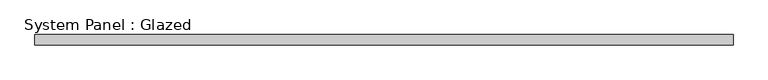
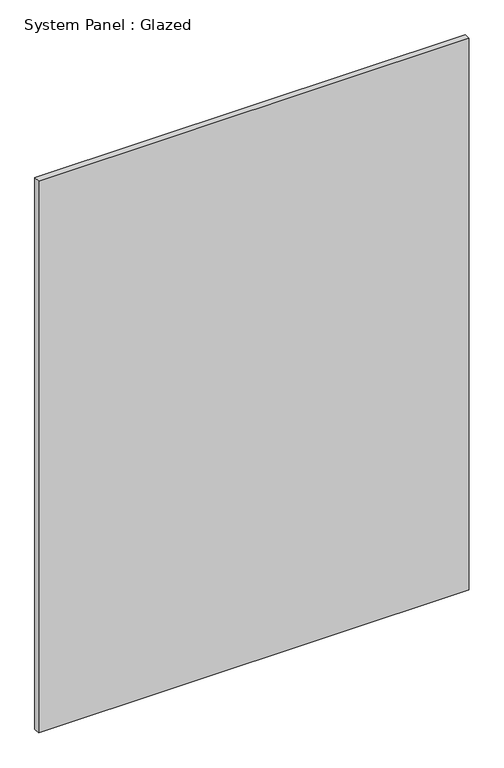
"""IFC4 building model written with IfcOpenShell, lengths in millimetres: plate geometry, System Panel : Glazed."""

from ifc_helpers import new_model, si_unit, origin, origin_with_axes, place, context, project, spatial, polyline, outline, extrude, source, transform, mapped, element, save


def system_panel_glazed_7b0bdca2(model_context):
    return source(origin(), model_context, "Body", "SweptSolid", [
        extrude(outline(polyline([(876.1236512, 19.05), (-876.1236512, 19.05), (-876.1236512, 44.45), (876.1236512, 44.45), (876.1236512, 19.05)])), origin_with_axes(), (0.0, 0.0, 1.0), 2374.7638735),
    ])


if __name__ == "__main__":
    model = new_model("IFC4")
    model_context = context("Model", 3, world=origin())
    ifc_project = project(units=[si_unit("LENGTHUNIT", "METRE", prefix="MILLI")], contexts=[model_context])
    site = spatial("IfcSite", under=ifc_project)
    building = spatial("IfcBuilding", under=site)
    placement = place(None, origin())
    system_panel_glazed_shape = system_panel_glazed_7b0bdca2(model_context)
    element("IfcPlate", 1, ObjectType="System Panel : Glazed", at=placement, inside=building, context=model_context, shape_type="MappedRepresentation", body=[
        mapped(system_panel_glazed_shape, transform((0.0, 0.0, 0.0), x_axis=(1.0, 0.0, 0.0), y_axis=(0.0, 1.0, 0.0), z_axis=(0.0, 0.0, 1.0))),
    ])
    save(model, "model.ifc")
